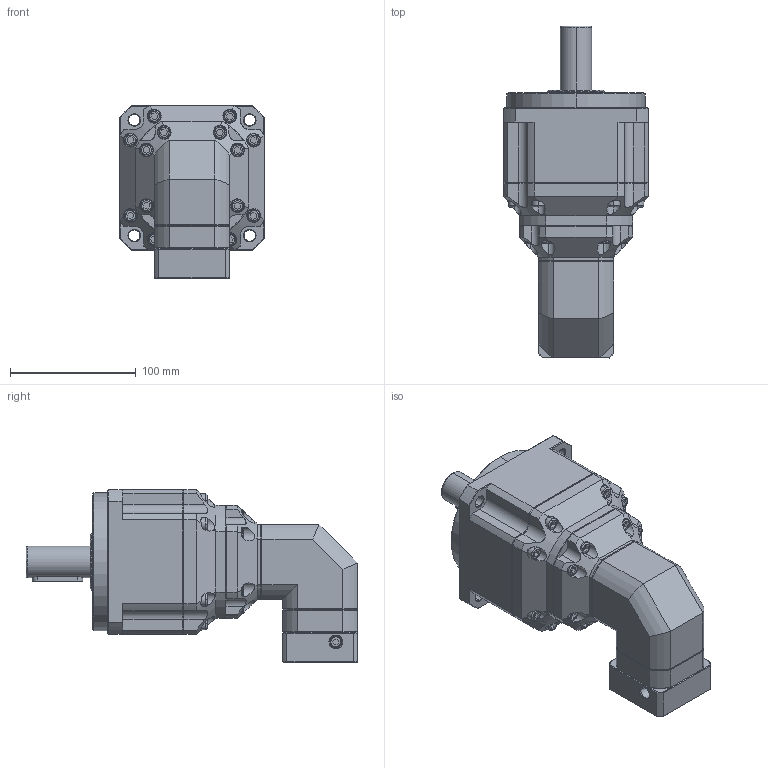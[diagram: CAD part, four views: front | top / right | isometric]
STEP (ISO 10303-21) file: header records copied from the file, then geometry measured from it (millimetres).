
FILE_DESCRIPTION (( 'STEP AP214' ), '1' );
FILE_NAME ('ZPBR115-D25-L3-P1-8-38.1-47.14X47.14-M4.step', '2024-06-29T08:04:30', ( 'Windows 蚚誧' ), ( 'Organization' ), 'SwSTEP 2.0', 'SolidWorks 2016', '' );
FILE_SCHEMA (( 'AUTOMOTIVE_DESIGN' ));
Length unit declared in the file: millimetre
Products named in the file (1): ZPBR115-D25-L3-P1-8-38.1-47.14X47.14-M4
Bounding box: 115 x 264 x 137.5 mm (x, y, z)
Surface area: 129064.7 mm2 (no closed solid volume)
Topology: 0 solids, 3 shells, 1979 faces, 5281 edges, 3416 vertices
Faces by surface type: plane 1140, bspline 413, cylinder 238, cone 188
Full cylindrical faces by diameter (mm): 10.2 x1
Entity records: 106917 total; most frequent: CARTESIAN_POINT 52120, ORIENTED_EDGE 10540, DIRECTION 7911, EDGE_CURVE 5279, LINE 3443, VECTOR 3443, VERTEX_POINT 3415, AXIS2_PLACEMENT_3D 2234
